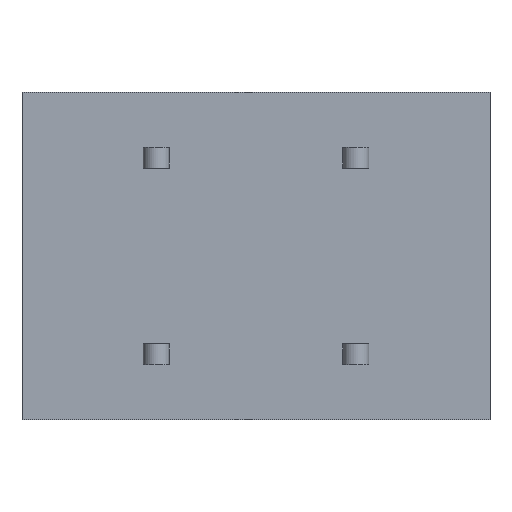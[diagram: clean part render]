
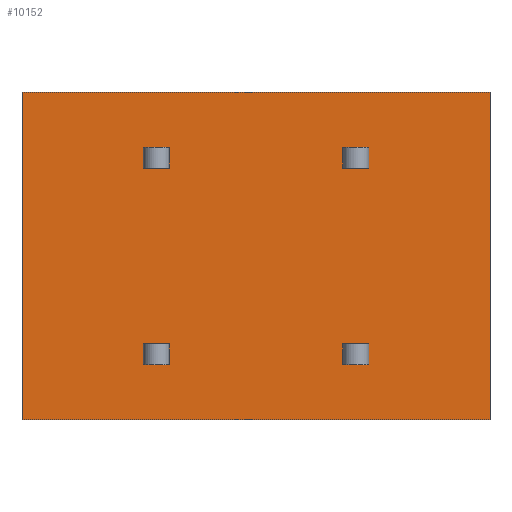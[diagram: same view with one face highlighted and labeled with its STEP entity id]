
A CAD part, front view. The second image highlights one B-rep face of the part: STEP entity #10152.
In plain terms, the highlighted planar face has unit normal (0, -1, 0).
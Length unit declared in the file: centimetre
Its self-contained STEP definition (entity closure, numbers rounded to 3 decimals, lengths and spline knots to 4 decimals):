
#715=VERTEX_POINT('',#13386);
#716=VERTEX_POINT('',#13387);
#719=VERTEX_POINT('',#13395);
#725=VERTEX_POINT('',#13410);
#726=VERTEX_POINT('',#13411);
#729=VERTEX_POINT('',#13419);
#731=VERTEX_POINT('',#13425);
#752=VERTEX_POINT('',#13486);
#764=VERTEX_POINT('',#13531);
#765=VERTEX_POINT('',#13532);
#766=VERTEX_POINT('',#13534);
#767=VERTEX_POINT('',#13536);
#768=VERTEX_POINT('',#13539);
#769=VERTEX_POINT('',#13540);
#770=VERTEX_POINT('',#13542);
#771=VERTEX_POINT('',#13544);
#772=VERTEX_POINT('',#13547);
#773=VERTEX_POINT('',#13548);
#774=VERTEX_POINT('',#13550);
#775=VERTEX_POINT('',#13552);
#1752=VECTOR('',#11325,1.);
#1756=VECTOR('',#11330,1.);
#1762=VECTOR('',#11340,1.);
#1765=VECTOR('',#11346,1.);
#1768=VECTOR('',#11350,1.);
#1790=VECTOR('',#11399,1.);
#1791=VECTOR('',#11401,1.);
#1795=VECTOR('',#11406,1.);
#1814=VECTOR('',#11434,1.);
#1815=VECTOR('',#11435,1.);
#1816=VECTOR('',#11436,1.);
#1817=VECTOR('',#11437,1.);
#1818=VECTOR('',#11438,1.);
#1819=VECTOR('',#11439,1.);
#1820=VECTOR('',#11440,1.);
#1821=VECTOR('',#11441,1.);
#1822=VECTOR('',#11442,1.);
#1823=VECTOR('',#11443,1.);
#1824=VECTOR('',#11444,1.);
#1825=VECTOR('',#11445,1.);
#2948=LINE('',#13385,#1752);
#2952=LINE('',#13394,#1756);
#2958=LINE('',#13409,#1762);
#2961=LINE('',#13418,#1765);
#2964=LINE('',#13424,#1768);
#2986=LINE('',#13483,#1790);
#2987=LINE('',#13485,#1791);
#2991=LINE('',#13492,#1795);
#3010=LINE('',#13530,#1814);
#3011=LINE('',#13533,#1815);
#3012=LINE('',#13535,#1816);
#3013=LINE('',#13537,#1817);
#3014=LINE('',#13538,#1818);
#3015=LINE('',#13541,#1819);
#3016=LINE('',#13543,#1820);
#3017=LINE('',#13545,#1821);
#3018=LINE('',#13546,#1822);
#3019=LINE('',#13549,#1823);
#3020=LINE('',#13551,#1824);
#3021=LINE('',#13553,#1825);
#4215=EDGE_CURVE('',#715,#716,#2948,.T.);
#4219=EDGE_CURVE('',#719,#715,#2952,.T.);
#4226=EDGE_CURVE('',#725,#726,#2958,.T.);
#4230=EDGE_CURVE('',#729,#725,#2961,.T.);
#4233=EDGE_CURVE('',#731,#729,#2964,.T.);
#4262=EDGE_CURVE('',#726,#731,#2986,.T.);
#4263=EDGE_CURVE('',#752,#719,#2987,.T.);
#4267=EDGE_CURVE('',#716,#752,#2991,.T.);
#4286=EDGE_CURVE('',#764,#765,#3010,.T.);
#4287=EDGE_CURVE('',#765,#766,#3011,.T.);
#4288=EDGE_CURVE('',#767,#766,#3012,.T.);
#4289=EDGE_CURVE('',#767,#764,#3013,.T.);
#4290=EDGE_CURVE('',#768,#769,#3014,.T.);
#4291=EDGE_CURVE('',#770,#768,#3015,.T.);
#4292=EDGE_CURVE('',#771,#770,#3016,.T.);
#4293=EDGE_CURVE('',#769,#771,#3017,.T.);
#4294=EDGE_CURVE('',#772,#773,#3018,.T.);
#4295=EDGE_CURVE('',#774,#772,#3019,.T.);
#4296=EDGE_CURVE('',#775,#774,#3020,.T.);
#4297=EDGE_CURVE('',#773,#775,#3021,.T.);
#6096=ORIENTED_EDGE('',*,*,#4286,.T.);
#6097=ORIENTED_EDGE('',*,*,#4287,.T.);
#6098=ORIENTED_EDGE('',*,*,#4288,.F.);
#6099=ORIENTED_EDGE('',*,*,#4289,.T.);
#6100=ORIENTED_EDGE('',*,*,#4290,.F.);
#6101=ORIENTED_EDGE('',*,*,#4291,.F.);
#6102=ORIENTED_EDGE('',*,*,#4292,.F.);
#6103=ORIENTED_EDGE('',*,*,#4293,.F.);
#6104=ORIENTED_EDGE('',*,*,#4294,.F.);
#6105=ORIENTED_EDGE('',*,*,#4295,.F.);
#6106=ORIENTED_EDGE('',*,*,#4296,.F.);
#6107=ORIENTED_EDGE('',*,*,#4297,.F.);
#6108=ORIENTED_EDGE('',*,*,#4233,.T.);
#6109=ORIENTED_EDGE('',*,*,#4230,.T.);
#6110=ORIENTED_EDGE('',*,*,#4226,.T.);
#6111=ORIENTED_EDGE('',*,*,#4262,.T.);
#6112=ORIENTED_EDGE('',*,*,#4219,.T.);
#6113=ORIENTED_EDGE('',*,*,#4215,.T.);
#6114=ORIENTED_EDGE('',*,*,#4267,.T.);
#6115=ORIENTED_EDGE('',*,*,#4263,.T.);
#8867=EDGE_LOOP('',(#6096,#6097,#6098,#6099));
#8868=EDGE_LOOP('',(#6100,#6101,#6102,#6103));
#8869=EDGE_LOOP('',(#6104,#6105,#6106,#6107));
#8870=EDGE_LOOP('',(#6108,#6109,#6110,#6111));
#8871=EDGE_LOOP('',(#6112,#6113,#6114,#6115));
#9513=FACE_BOUND('',#8867,.T.);
#9514=FACE_BOUND('',#8868,.T.);
#9515=FACE_BOUND('',#8869,.T.);
#9516=FACE_BOUND('',#8870,.T.);
#9517=FACE_BOUND('',#8871,.T.);
#10152=ADVANCED_FACE('',(#9513,#9514,#9515,#9516,#9517),#10711,.T.);
#10711=PLANE('',#17340);
#11325=DIRECTION('',(0.,0.,1.));
#11330=DIRECTION('',(-1.,0.,0.));
#11340=DIRECTION('',(-1.,0.,0.));
#11346=DIRECTION('',(0.,0.,-1.));
#11350=DIRECTION('',(1.,0.,0.));
#11399=DIRECTION('',(0.,0.,1.));
#11401=DIRECTION('',(0.,0.,-1.));
#11406=DIRECTION('',(1.,0.,0.));
#11433=DIRECTION('',(0.,-1.,0.));
#11434=DIRECTION('',(-1.,0.,0.));
#11435=DIRECTION('',(0.,0.,-1.));
#11436=DIRECTION('',(-1.,0.,0.));
#11437=DIRECTION('',(0.,0.,1.));
#11438=DIRECTION('',(1.,0.,0.));
#11439=DIRECTION('',(0.,0.,-1.));
#11440=DIRECTION('',(-1.,0.,0.));
#11441=DIRECTION('',(0.,0.,1.));
#11442=DIRECTION('',(-1.,0.,0.));
#11443=DIRECTION('',(0.,0.,1.));
#11444=DIRECTION('',(1.,0.,0.));
#11445=DIRECTION('',(0.,0.,-1.));
#13385=CARTESIAN_POINT('',(-1.264,0.,0.1875));
#13386=CARTESIAN_POINT('',(-1.264,0.,0.335));
#13387=CARTESIAN_POINT('',(-1.264,0.,0.415));
#13394=CARTESIAN_POINT('',(-1.369,0.,0.335));
#13395=CARTESIAN_POINT('',(-1.164,0.,0.335));
#13409=CARTESIAN_POINT('',(-1.369,0.,-0.415));
#13410=CARTESIAN_POINT('',(-1.164,0.,-0.415));
#13411=CARTESIAN_POINT('',(-1.264,0.,-0.415));
#13418=CARTESIAN_POINT('',(-1.164,0.,-0.1875));
#13419=CARTESIAN_POINT('',(-1.164,0.,-0.335));
#13424=CARTESIAN_POINT('',(-1.369,0.,-0.335));
#13425=CARTESIAN_POINT('',(-1.264,0.,-0.335));
#13483=CARTESIAN_POINT('',(-1.264,0.,-0.1875));
#13485=CARTESIAN_POINT('',(-1.164,0.,0.1875));
#13486=CARTESIAN_POINT('',(-1.164,0.,0.415));
#13492=CARTESIAN_POINT('',(-1.369,0.,0.415));
#13529=CARTESIAN_POINT('',(-1.524,0.,0.));
#13530=CARTESIAN_POINT('',(0.,0.,0.625));
#13531=CARTESIAN_POINT('',(0.06,0.,0.625));
#13532=CARTESIAN_POINT('',(-1.726,0.,0.625));
#13533=CARTESIAN_POINT('',(-1.726,0.,-0.625));
#13534=CARTESIAN_POINT('',(-1.726,0.,-0.625));
#13535=CARTESIAN_POINT('',(0.,0.,-0.625));
#13536=CARTESIAN_POINT('',(0.06,0.,-0.625));
#13537=CARTESIAN_POINT('',(0.06,0.,0.625));
#13538=CARTESIAN_POINT('',(-0.297,0.,0.335));
#13539=CARTESIAN_POINT('',(-0.502,0.,0.335));
#13540=CARTESIAN_POINT('',(-0.402,0.,0.335));
#13541=CARTESIAN_POINT('',(-0.502,0.,0.1875));
#13542=CARTESIAN_POINT('',(-0.502,0.,0.415));
#13543=CARTESIAN_POINT('',(-0.297,0.,0.415));
#13544=CARTESIAN_POINT('',(-0.402,0.,0.415));
#13545=CARTESIAN_POINT('',(-0.402,0.,0.1875));
#13546=CARTESIAN_POINT('',(-0.297,0.,-0.335));
#13547=CARTESIAN_POINT('',(-0.402,0.,-0.335));
#13548=CARTESIAN_POINT('',(-0.502,0.,-0.335));
#13549=CARTESIAN_POINT('',(-0.402,0.,-0.1875));
#13550=CARTESIAN_POINT('',(-0.402,0.,-0.415));
#13551=CARTESIAN_POINT('',(-0.297,0.,-0.415));
#13552=CARTESIAN_POINT('',(-0.502,0.,-0.415));
#13553=CARTESIAN_POINT('',(-0.502,0.,-0.1875));
#17340=AXIS2_PLACEMENT_3D('',#13529,#11433,$);
